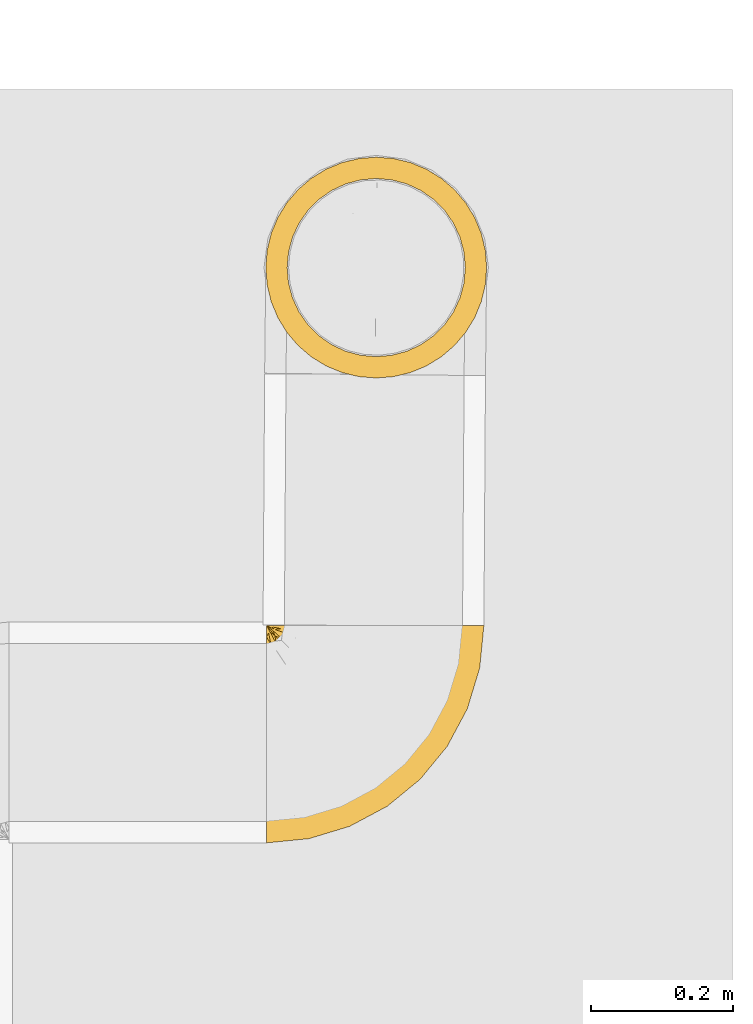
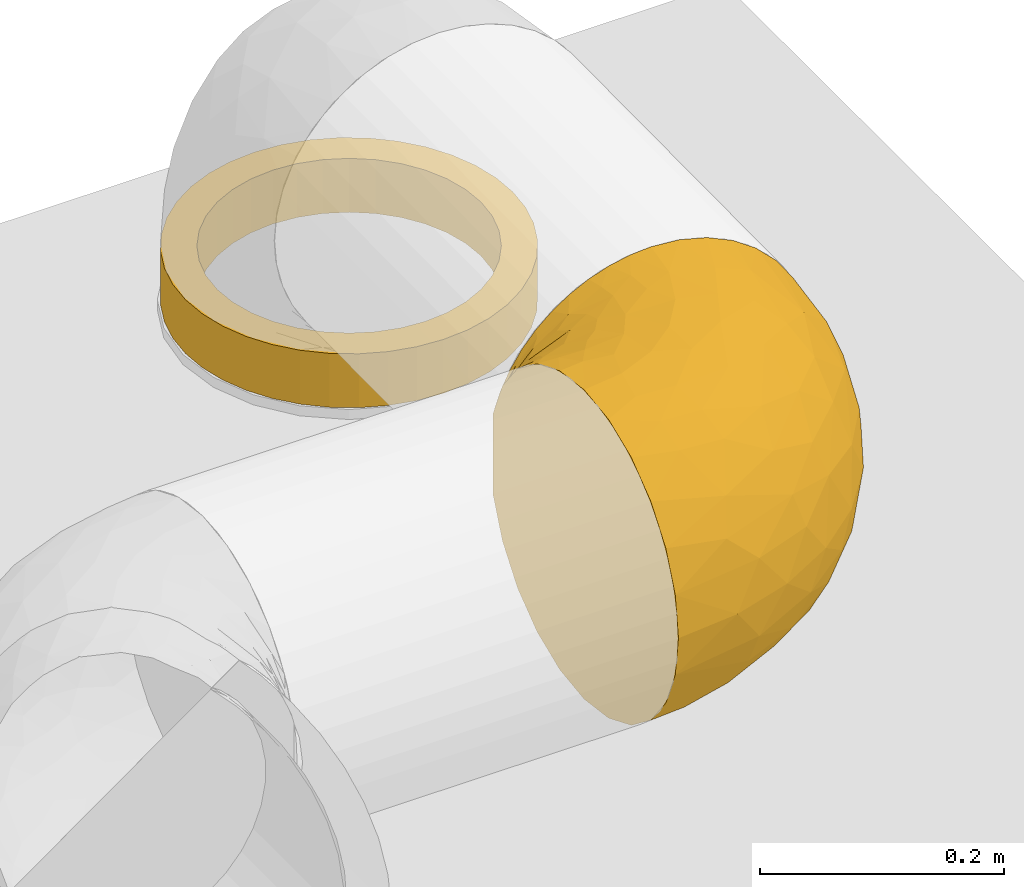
# One storey, part 3 of 36: 2 coverings.
"""IFC2X3 building model written with IfcOpenShell, lengths in millimetres."""

import ifcopenshell
import ifcopenshell.guid

model = None  # the IFC model being written
_history = None  # IfcOwnerHistory: only IFC2X3 demands one
_inside = {}  # id of a spatial element -> (the spatial element, [elements in it])
_under = {}  # id of a project, library or spatial element -> (it, [spatial elements below it])
_declared = {}  # id of a project -> (the project, [libraries it declares])
_typed = {}  # id of a type object -> (the type object, [elements of that type])
_made_of = {}  # id of a material, layer set ... -> (it, [elements and type objects made of it])


def new_model(schema):
    """Start an empty IFC model of exactly this schema.

    Asked for "IFC4X3", IfcOpenShell would pick the latest addendum, in which some entities
    have other attributes; the version numbers below select the first issue.
    IFC2X3 requires an IfcOwnerHistory on every rooted entity: one is made here for all.
    """
    global model, _history
    if schema == "IFC4X3":
        model = ifcopenshell.file(schema_version=(4, 3, 0, 0))
    else:
        model = ifcopenshell.file(schema=schema)
    _inside.clear()
    _under.clear()
    _declared.clear()
    _typed.clear()
    _made_of.clear()
    _history = None
    if model.schema == "IFC2X3":
        org = make("IfcOrganization", Name="unknown")
        user = make(
            "IfcPersonAndOrganization",
            ThePerson=make("IfcPerson", FamilyName="unknown"),
            TheOrganization=org,
        )
        app = make(
            "IfcApplication",
            ApplicationDeveloper=org,
            Version="unknown",
            ApplicationFullName="unknown",
            ApplicationIdentifier="unknown",
        )
        _history = make(
            "IfcOwnerHistory",
            OwningUser=user,
            OwningApplication=app,
            ChangeAction="ADDED",
            CreationDate=0,
        )
    return model


def make(cls, **values):
    """One entity of the class cls with the attributes given. An attribute that is None is left unset."""
    return model.create_entity(
        cls, **{name: value for name, value in values.items() if value is not None}
    )


def entity(cls, *values):
    """Any entity or typed value of the class cls, its attributes in the order of the schema. None: left unset."""
    e = model.create_entity(cls)
    for i, value in enumerate(values):
        if value is not None:
            e[i] = value
    return e


def rooted(cls, **values):
    """An entity with a GlobalId (a new one), such as an element, a storey or a relation."""
    return make(cls, GlobalId=ifcopenshell.guid.new(), OwnerHistory=_history, **values)


def si_unit(unit_type, name, prefix=None):
    """IfcSIUnit, for example si_unit("LENGTHUNIT", "METRE", prefix="MILLI")."""
    return make("IfcSIUnit", UnitType=unit_type, Prefix=prefix, Name=name)


def converted_unit(unit_type, name, factor, base, dimensions=None, offset=None):
    """IfcConversionBasedUnit, such as the inch: factor (a typed value) times the base unit."""
    return make(
        "IfcConversionBasedUnit"
        if offset is None
        else "IfcConversionBasedUnitWithOffset",
        ConversionOffset=offset,
        Dimensions=None
        if dimensions is None
        else entity("IfcDimensionalExponents", *dimensions),
        UnitType=unit_type,
        Name=name,
        ConversionFactor=make(
            "IfcMeasureWithUnit", ValueComponent=factor, UnitComponent=base
        ),
    )


def derived_unit(unit_type, elements):
    """IfcDerivedUnit: a product of units, each with its exponent."""
    return make(
        "IfcDerivedUnit",
        Elements=[
            make("IfcDerivedUnitElement", Unit=unit, Exponent=power)
            for unit, power in elements
        ],
        UnitType=unit_type,
    )


def assignment(units):
    """IfcUnitAssignment: the units of a project."""
    return None if units is None else make("IfcUnitAssignment", Units=units)


def point(xyz):
    """IfcCartesianPoint."""
    return None if xyz is None else make("IfcCartesianPoint", Coordinates=xyz)


def direction(xyz):
    """IfcDirection."""
    return None if xyz is None else make("IfcDirection", DirectionRatios=xyz)


def frame(location, z_axis=None, x_axis=None):
    """IfcAxis2Placement3D, a coordinate frame: its origin and axes. An axis left out is left unset."""
    return make(
        "IfcAxis2Placement3D",
        Location=point(location),
        Axis=direction(z_axis),
        RefDirection=direction(x_axis),
    )


def frame_2d(location, x_axis=None):
    """IfcAxis2Placement2D, a coordinate frame in the plane: its origin and x axis."""
    return make(
        "IfcAxis2Placement2D", Location=point(location), RefDirection=direction(x_axis)
    )


def origin_with_axes():
    """The frame at (0, 0, 0) with the z axis (0, 0, 1) and the x axis (1, 0, 0) written out."""
    return frame((0.0, 0.0, 0.0), z_axis=(0.0, 0.0, 1.0), x_axis=(1.0, 0.0, 0.0))


def origin_2d_with_axis():
    """The frame at (0, 0) in the plane with the x axis (1, 0) written out."""
    return frame_2d((0.0, 0.0), x_axis=(1.0, 0.0))


def place(relative_to, where):
    """IfcLocalPlacement: puts the frame where relative to a parent placement (None: the world)."""
    return make(
        "IfcLocalPlacement", PlacementRelTo=relative_to, RelativePlacement=where
    )


def context(
    kind, dimensions, precision=None, world=None, true_north=None, identifier=None
):
    """IfcGeometricRepresentationContext, for example the 3D "Model" context."""
    return make(
        "IfcGeometricRepresentationContext",
        ContextIdentifier=identifier,
        ContextType=kind,
        CoordinateSpaceDimension=dimensions,
        Precision=precision,
        WorldCoordinateSystem=world,
        TrueNorth=true_north,
    )


def subcontext(parent, identifier, kind, view, scale=None):
    """IfcGeometricRepresentationSubContext, for example "Body" below "Model"."""
    return make(
        "IfcGeometricRepresentationSubContext",
        ContextIdentifier=identifier,
        ContextType=kind,
        ParentContext=parent,
        TargetScale=scale,
        TargetView=view,
    )


def project(units=None, contexts=None):
    """IfcProject with its units and contexts."""
    return rooted(
        "IfcProject",
        Name="project",
        RepresentationContexts=contexts,
        UnitsInContext=assignment(units),
    )


def spatial(cls, under=None, at=None, **own):
    """A site, building, storey or space (cls), placed at a placement, below another one or the project."""
    s = rooted(cls, ObjectPlacement=at, **own)
    if under is not None:
        _under.setdefault(under.id(), (under, []))[1].append(s)
    return s


def profile(cls, at=None, kind="AREA", **sizes):
    """A parametric profile (cls). Its sizes go by their IFC names, for example OverallWidth=200.0."""
    return make(cls, ProfileType=kind, Position=at, **sizes)


def hollow_circle(**sizes):
    """IfcCircleHollowProfileDef."""
    return profile("IfcCircleHollowProfileDef", **sizes)


def extrude(swept, where, along, depth):
    """IfcExtrudedAreaSolid: the profile swept, set in the frame where, extruded along a direction by depth."""
    return make(
        "IfcExtrudedAreaSolid",
        SweptArea=swept,
        Position=where,
        ExtrudedDirection=direction(along),
        Depth=depth,
    )


def faces_of(points, faces, orient=None, outer=None):
    """IfcFace entities. A face is a list of loops; a loop is a list of indices into points, from 0.

    orient and outer hold one flag for each loop. By default every Orientation is true, the
    first loop of a face is its IfcFaceOuterBound and the others are IfcFaceBound.
    """
    made = []
    for i, loops in enumerate(faces):
        bounds = []
        for j, loop in enumerate(loops):
            is_outer = j == 0 if outer is None else outer[i][j]
            bounds.append(
                make(
                    "IfcFaceOuterBound" if is_outer else "IfcFaceBound",
                    Bound=make("IfcPolyLoop", Polygon=[points[k] for k in loop]),
                    Orientation=True if orient is None else orient[i][j],
                )
            )
        made.append(make("IfcFace", Bounds=bounds))
    return made


def open_shell(faces, orient=None, outer=None):
    """The faces of one IfcOpenShell. surface_model builds it on its shared points."""
    return ("IfcOpenShell", faces, orient, outer)


def surface_model(cls, points, shells):
    """IfcFaceBasedSurfaceModel or IfcShellBasedSurfaceModel (cls): surfaces that need not close."""
    shared = [point(p) for p in points]
    made = [make(c, CfsFaces=faces_of(shared, fs, o, b)) for c, fs, o, b in shells]
    if cls == "IfcFaceBasedSurfaceModel":
        return make(cls, FbsmFaces=made)
    return make(cls, SbsmBoundary=made)


def shape(context_of_items, identifier, shape_type, items):
    """IfcShapeRepresentation: the items that make up one representation, for example the "Body"."""
    return make(
        "IfcShapeRepresentation",
        ContextOfItems=context_of_items,
        RepresentationIdentifier=identifier,
        RepresentationType=shape_type,
        Items=items,
    )


def source(mapping_origin, context_of_items, identifier, shape_type, items):
    """IfcRepresentationMap: a shape defined once, which mapped items show again and again."""
    return make(
        "IfcRepresentationMap",
        MappingOrigin=mapping_origin,
        MappedRepresentation=shape(context_of_items, identifier, shape_type, items),
    )


def transform(
    local_origin,
    x_axis=None,
    y_axis=None,
    z_axis=None,
    scale=None,
    scale2=None,
    scale3=None,
    uniform=True,
):
    """IfcCartesianTransformationOperator3D, or its non-uniform kind. x_axis, y_axis, z_axis: its Axis1, 2, 3."""
    if uniform:
        return make(
            "IfcCartesianTransformationOperator3D",
            Axis1=direction(x_axis),
            Axis2=direction(y_axis),
            LocalOrigin=point(local_origin),
            Scale=scale,
            Axis3=direction(z_axis),
        )
    return make(
        "IfcCartesianTransformationOperator3DnonUniform",
        Axis1=direction(x_axis),
        Axis2=direction(y_axis),
        LocalOrigin=point(local_origin),
        Scale=scale,
        Axis3=direction(z_axis),
        Scale2=scale2,
        Scale3=scale3,
    )


def mapped(mapping_source, mapping_target):
    """IfcMappedItem: shows the shape of a source again, moved by a transform."""
    return make(
        "IfcMappedItem", MappingSource=mapping_source, MappingTarget=mapping_target
    )


def made_of(thing, what):
    """Note that an element or type object is made of a material, layer set ...; save() writes the relation."""
    if what is not None:
        _made_of.setdefault(what.id(), (what, []))[1].append(thing)
    return thing


def element(
    cls,
    number,
    at=None,
    inside=None,
    cuts=None,
    type_object=None,
    material=None,
    context=None,
    identifier="Body",
    shape_type=None,
    held_by="IfcProductDefinitionShape",
    body=None,
    shapes=None,
    **own,
):
    """One element of the class cls, such as IfcWall. Its Tag is "e" and its number.

    at: its placement. inside: the storey or other place that contains it. cuts: it is an
    opening in that element (IfcRelVoidsElement). A single representation is given by context,
    identifier, shape_type and body (its items); several are given by shapes. held_by: the class
    of the entity that holds the representations. save() writes the other relations.
    """
    e = rooted(cls, Tag="e%d" % number, ObjectPlacement=at, **own)
    if body is not None:
        shapes = [shape(context, identifier, shape_type, body)]
    if shapes is not None:
        e.Representation = make(held_by, Representations=shapes)
    if inside is not None:
        _inside.setdefault(inside.id(), (inside, []))[1].append(e)
    if cuts is not None:
        rooted(
            "IfcRelVoidsElement", RelatingBuildingElement=cuts, RelatedOpeningElement=e
        )
    if type_object is not None:
        _typed.setdefault(type_object.id(), (type_object, []))[1].append(e)
    return made_of(e, material)


def aggregate(whole, parts):
    """IfcRelAggregates: a whole, such as a stair, and the parts it consists of."""
    return rooted("IfcRelAggregates", RelatingObject=whole, RelatedObjects=parts)


def save(model, path):
    """Write the relations noted so far, then the file.

    IfcRelAggregates (storeys below a building ...), IfcRelContainedInSpatialStructure (elements
    in a storey), IfcRelDefinesByType, IfcRelAssociatesMaterial and IfcRelDeclares: one each for
    every whole, place, type object, material and project.
    """
    for whole, parts in _under.values():
        aggregate(whole, parts)
    for where, things in _inside.values():
        rooted(
            "IfcRelContainedInSpatialStructure",
            RelatedElements=things,
            RelatingStructure=where,
        )
    for kind, things in _typed.values():
        rooted("IfcRelDefinesByType", RelatedObjects=things, RelatingType=kind)
    for what, things in _made_of.values():
        rooted("IfcRelAssociatesMaterial", RelatedObjects=things, RelatingMaterial=what)
    for by, libraries in _declared.values():
        rooted("IfcRelDeclares", RelatingContext=by, RelatedDefinitions=libraries)
    model.write(path)


model = new_model("IFC2X3")

# Units and contexts
model_context = context("Model", 3, precision=0.01, world=frame((0.0, 4.29681676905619e-09, 0.0)), true_north=direction((4.01073788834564e-13, 1.0)))
plan_context = context("Plan", 3, precision=0.01, world=frame((0.0, 4.29681676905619e-09, 0.0)), true_north=direction((4.01073788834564e-13, 1.0)))
body_context = subcontext(model_context, "Body", "Model", "MODEL_VIEW")
ifc_project = project(units=[converted_unit("PLANEANGLEUNIT", "DEGREE", entity("IfcPositiveLengthMeasure", 0.0174532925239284), si_unit("PLANEANGLEUNIT", "RADIAN"), dimensions=[0, 0, 0, 0, 0, 0, 0]), si_unit("AREAUNIT", "SQUARE_METRE"), si_unit("LENGTHUNIT", "METRE", prefix="MILLI"), si_unit("MASSUNIT", "GRAM", prefix="KILO"), si_unit("POWERUNIT", "WATT"), si_unit("PRESSUREUNIT", "PASCAL"), si_unit("FORCEUNIT", "NEWTON", prefix="KILO"), si_unit("ELECTRICCURRENTUNIT", "AMPERE"), si_unit("THERMODYNAMICTEMPERATUREUNIT", "DEGREE_CELSIUS"), si_unit("TIMEUNIT", "SECOND"), si_unit("VOLUMEUNIT", "CUBIC_METRE"), derived_unit("LINEARVELOCITYUNIT", [(si_unit("LENGTHUNIT", "METRE"), 1), (si_unit("TIMEUNIT", "SECOND"), -1)]), derived_unit("VOLUMETRICFLOWRATEUNIT", [(si_unit("VOLUMEUNIT", "CUBIC_METRE"), 1), (si_unit("TIMEUNIT", "SECOND"), -1)]), derived_unit("THERMALTRANSMITTANCEUNIT", [(si_unit("POWERUNIT", "WATT"), 1), (si_unit("THERMODYNAMICTEMPERATUREUNIT", "KELVIN"), -1), (si_unit("AREAUNIT", "SQUARE_METRE"), -1)])], contexts=[model_context, plan_context])

# Site, building, storey
site_placement = place(None, frame((0.0, -4.29681676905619e-09, 0.0), z_axis=(0.0, 0.0, 1.0), x_axis=(1.0, 0.0, 0.0)))
site = spatial("IfcSite", under=ifc_project, at=site_placement, CompositionType="ELEMENT")
building_placement = place(site_placement, frame((0.0, 4.29681676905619e-09, 0.0), z_axis=(0.0, 0.0, 1.0), x_axis=(1.0, 0.0, 0.0)))
building = spatial("IfcBuilding", under=site, at=building_placement, Name="mc-building", CompositionType="ELEMENT")
storey_placement = place(building_placement, frame((0.0, 0.0, 204000.0), z_axis=(0.0, 0.0, 1.0), x_axis=(1.0, 0.0, 0.0)))
storey = spatial("IfcBuildingStorey", under=building, at=storey_placement, Name="Nivå D", CompositionType="ELEMENT", Elevation=204000.0)

# Coverings
shared_shape_1 = source(origin_with_axes(), body_context, "Body", "SurfaceModel", [
    surface_model("IfcShellBasedSurfaceModel", [(118.73529, 150.0, 99.63399), (134.23266, 150.0, 77.50222), (145.65278, 150.0, 53.01196), (-20.18853, 150.0, 153.67961), (0.0, 150.0, 155.0), (-40.0315, 150.0, 149.74138), (-134.05246, 150.0, 77.81348), (-149.602, 150.0, 40.54927), (-143.04559, 150.0, 59.69053), (-149.602, 150.0, -40.54927), (152.6459, 150.0, 26.91148), (155.0, 150.0, 0.0), (99.63399, 150.0, -118.73529), (77.50222, 150.0, -134.23266), (53.01196, 150.0, -145.65278), (26.91148, 150.0, -152.6459), (0.0, 150.0, -155.0), (-94.1823, 150.0, -123.1044), (-109.41224, 150.0, -109.79054), (-122.77862, 150.0, -94.6066), (-134.05394, 150.0, -77.81094), (-143.0461, 150.0, -59.68929), (-150.0, 149.602, -40.54927), (-150.0, 149.602, 40.54927), (-149.71857, 149.71857, 40.54927), (-149.71857, 149.71857, -40.54927), (-122.0938, 63.58605, -143.25267), (-150.0, 77.34484, -134.3234), (-136.20073, 95.91287, -123.10592), (-137.47708, 125.83029, -94.60648), (-147.1653, 140.01208, -67.31958), (-145.05359, 140.9526, -67.17187), (-150.0, 134.05448, -77.80999), (-149.94253, 149.6258, -40.54927), (-80.29961, 51.39737, -152.21515), (-103.44954, 37.61727, -152.38384), (-94.99005, 78.30964, -143.06822), (-150.0, 109.41143, -109.79135), (-55.95077, 115.20609, -146.80879), (-89.48176, 101.66012, -136.97501), (-88.82525, 121.39611, -131.24017), (-111.53741, 121.30822, -116.69619), (-144.09591, 123.4267, -94.60648), (-150.0, 40.03045, -149.74166), (-127.29873, 29.80052, -152.50922), (-150.0, 0.0, -155.0), (-75.0, 20.09619, -155.0), (-118.1798, 139.03454, -102.41686), (-118.92581, 90.55276, -130.95454), (-59.19573, 150.0, -143.25106), (-70.00847, 133.96789, -139.08278), (-77.34799, 150.0, -134.32159), (-61.94591, 82.43371, -150.01067), (-20.09619, 75.0, -155.0), (-43.93398, 43.93398, -155.0), (-149.68409, 149.80181, -40.54927), (-149.6496, 149.88506, -40.54927), (-132.32871, 142.03789, -83.45054), (-31.66904, 101.56483, -153.41062), (-136.84157, 146.59806, -73.60439), (-96.60055, 136.76109, -122.48696), (-32.51292, 126.45276, -152.03415), (-5.11113, 111.17714, -155.0), (-20.18986, 150.0, -153.67945), (-40.03434, 150.0, -149.74061), (-111.17714, 5.11113, -155.0), (-137.03744, 135.04293, -84.08924), (-122.88609, 116.1525, -112.49311), (-136.26737, 140.44841, -79.14233), (-131.29438, 108.39556, -114.58186), (-106.70969, 100.42277, -130.1473), (-149.85928, 149.66028, -40.54927), (-149.78892, 149.68943, -40.54927), (-81.04119, -16.4813, -152.02986), (-116.18378, -26.02376, -152.21653), (131.78325, 33.28155, 0.0), (141.04553, 78.41765, -40.11476), (149.13951, 90.49746, 0.0), (-67.24735, -127.11264, -68.1691), (-150.0, -149.7185, -40.11695), (-150.0, -134.23394, -77.5), (114.14712, 29.15563, -65.5067), (71.60067, -25.07998, -80.56368), (73.38458, 8.67006, -104.65045), (19.44892, -103.59823, 0.0), (0.95675, -110.7753, -33.58994), (49.11602, -77.65106, -28.03421), (-55.94132, -75.53005, -122.96977), (-107.24387, -90.58835, -122.96977), (-95.66121, -52.13969, -143.20133), (-0.20771, 35.06033, -150.06284), (-51.31739, 1.48198, -152.392), (-150.0, -77.5, -134.23394), (-150.0, -109.60155, -109.60155), (-54.64138, -41.60716, -141.15892), (152.64582, 150.0, -26.91195), (66.67312, 101.83568, -137.28255), (45.31502, 58.92276, -140.47743), (34.46684, 104.00581, -149.71919), (24.23902, -68.16086, -85.62716), (34.45369, -32.67366, -109.60181), (24.66713, 4.62395, -134.37766), (63.48014, 35.8833, -124.69436), (-79.13657, -113.61121, -94.35802), (-150.0, -155.0, 0.0), (-90.49746, -149.13951, 0.0), (37.641, -76.72836, -56.58032), (80.98557, -39.56495, -43.35542), (-33.28155, -131.78325, 0.0), (-62.91134, -137.09287, -39.00803), (-13.29658, -105.75414, -66.52793), (16.94312, 69.59641, -150.92769), (-24.95593, -12.96061, -144.75851), (118.73482, 150.0, -99.63454), (134.23249, 150.0, -77.50252), (130.97075, 88.8354, -71.44703), (94.07091, 61.55667, -109.60181), (-18.16534, -43.73064, -130.0498), (-9.76446, -69.1649, -109.00911), (65.66757, -65.66757, 0.0), (103.59823, -19.44892, 0.0), (145.65269, 150.0, -53.0122), (120.05296, 16.01657, -32.92188), (-150.0, -40.11695, -149.7185), (26.91195, 150.0, 152.64582), (-5.11113, 111.17714, 155.0), (34.46716, 104.0056, 149.7191), (-150.0, -149.7185, 40.11695), (-62.91133, -137.09289, 39.0079), (66.67351, 101.83536, 137.28232), (99.63454, 150.0, 118.73482), (77.50252, 150.0, 134.23249), (-4.6351, -113.35095, 35.80975), (-0.2077, 35.06033, 150.06284), (-20.09619, 75.0, 155.0), (-43.93398, 43.93398, 155.0), (36.16335, -79.7298, 52.90958), (-13.29652, -105.75426, 66.52764), (130.97108, 88.83573, 71.44654), (94.07163, 61.55714, 109.6013), (-92.39124, -133.99727, 66.97895), (80.98555, -39.56494, 43.3555), (141.04569, 78.41789, 40.11439), (-150.0, 0.0, 155.0), (-150.0, -40.11695, 149.7185), (-116.18307, -26.02416, 152.21643), (-42.25815, 9.58809, 152.63287), (-81.59831, -114.26067, 94.35802), (-106.87422, -81.84174, 129.07425), (-68.59042, -52.86926, 138.99578), (-109.18329, -55.29772, 143.20132), (-150.0, -77.5, 134.23394), (24.85479, 7.19063, 135.22219), (45.31512, 58.92233, 140.4773), (71.60146, -25.07914, 80.56352), (73.38472, 8.67039, 104.65052), (34.45406, -32.67402, 109.6013), (-62.50502, -78.15668, 122.96977), (-22.5047, -16.15511, 143.15239), (-77.22963, -25.6832, 149.70747), (114.14749, 29.15614, 65.50643), (63.48119, 35.88453, 124.69411), (120.0532, 16.01702, 32.92178), (-12.32249, -52.34142, 122.67654), (-150.0, -109.60155, 109.60155), (-19.74165, -84.78439, 99.91659), (26.84205, -68.68367, 82.46936), (53.0122, 150.0, 145.65269), (-75.0, 20.09619, 155.0), (-111.17714, 5.11113, 155.0), (16.94342, 69.59623, 150.92761), (-150.0, -134.23394, 77.5), (-126.9186, 42.25363, 149.80065), (-150.0, 40.03045, 149.74166), (-133.44376, 70.7605, 138.77026), (-150.0, 77.34484, 134.3234), (-80.71722, 115.52173, 136.9396), (-88.44442, 132.27863, 128.99063), (-102.56993, 126.66501, 120.78383), (-129.14296, 145.62289, 86.39583), (-122.77614, 150.0, 94.60984), (-78.97145, 57.43379, 151.37565), (-102.00586, 34.13191, 153.03779), (-149.6496, 149.88506, 40.54927), (-149.68409, 149.80181, 40.54927), (-138.49277, 144.51348, 72.02054), (-31.66714, 101.56927, 153.41064), (-62.73488, 83.03912, 149.74853), (-145.07011, 140.96969, 67.1242), (-149.85928, 149.66028, 40.54927), (-147.18207, 140.07114, 67.19209), (-79.93189, 99.563, 141.32072), (-55.94657, 115.20788, 146.80992), (-127.65846, 131.00429, 97.27617), (-138.2493, 135.6572, 82.12014), (-126.96761, 121.12603, 106.02507), (-150.0, 134.05448, 77.80999), (-150.0, 109.41143, 109.79135), (-143.89541, 123.47205, 94.60648), (-137.14121, 126.0073, 94.60648), (-133.70052, 96.61307, 123.10592), (-141.16662, 142.91589, 69.23674), (-118.67586, 137.68084, 102.42018), (-32.51047, 126.45429, 152.03457), (-149.94253, 149.6258, 40.54927), (-112.02924, 142.68426, 107.84446), (-56.66755, 133.19502, 144.85039), (-59.19195, 150.0, 143.25262), (-141.71917, 147.96851, 63.32625), (-94.17833, 150.0, 123.10745), (-77.34385, 150.0, 134.32397), (-149.6258, 149.94253, 40.54927), (-109.40886, 150.0, 109.79391), (-127.7393, 109.40375, 115.20024), (-112.88997, 97.15414, 129.33464), (-98.3972, 112.04888, 128.99063), (-89.95823, 85.78628, 142.02115), (-113.50407, 61.89104, 145.05307), (-103.07319, 76.35019, 141.76527), (-149.78892, 149.68943, 40.54927)], [open_shell([[[0, 1, 2]], [[3, 4, 5]], [[6, 7, 8]], [[9, 7, 6]], [[2, 10, 11]], [[12, 13, 14]], [[14, 15, 16]], [[17, 18, 19]], [[9, 20, 21]], [[20, 9, 19]], [[17, 19, 9]], [[22, 23, 24]], [[25, 22, 24]], [[7, 9, 24]], [[25, 24, 9]], [[26, 27, 28]], [[29, 30, 31]], [[32, 22, 33]], [[34, 35, 36]], [[27, 37, 28]], [[38, 39, 40]], [[39, 41, 40]], [[42, 37, 32]], [[43, 44, 45]], [[42, 28, 37]], [[44, 26, 35]], [[35, 34, 46]], [[19, 18, 47]], [[43, 27, 26]], [[48, 26, 28]], [[49, 50, 51]], [[52, 53, 54]], [[55, 56, 57]], [[21, 56, 9]], [[58, 52, 38]], [[59, 21, 20]], [[38, 52, 39]], [[50, 40, 60]], [[17, 60, 18]], [[51, 50, 60]], [[58, 61, 62]], [[63, 62, 61]], [[54, 34, 52]], [[40, 50, 38]], [[64, 50, 49]], [[61, 58, 38]], [[50, 64, 61]], [[65, 35, 46]], [[63, 61, 64]], [[63, 16, 62]], [[42, 30, 29]], [[19, 59, 20]], [[61, 38, 50]], [[29, 31, 66]], [[40, 47, 60]], [[66, 67, 29]], [[19, 47, 59]], [[47, 40, 41]], [[57, 41, 68]], [[67, 48, 69]], [[41, 67, 66]], [[56, 59, 57]], [[62, 53, 58]], [[52, 58, 53]], [[52, 36, 39]], [[70, 39, 36]], [[33, 30, 32]], [[42, 29, 69]], [[30, 33, 71]], [[30, 71, 31]], [[32, 30, 42]], [[66, 72, 25]], [[66, 25, 68]], [[31, 72, 66]], [[41, 66, 68]], [[70, 41, 39]], [[48, 36, 26]], [[44, 35, 65]], [[36, 35, 26]], [[52, 34, 36]], [[54, 46, 34]], [[31, 71, 72]], [[69, 48, 28]], [[70, 48, 67]], [[45, 44, 65]], [[26, 44, 43]], [[18, 60, 47]], [[51, 60, 17]], [[68, 25, 55]], [[21, 59, 56]], [[57, 59, 47]], [[48, 70, 36]], [[41, 70, 67]], [[42, 69, 28]], [[67, 69, 29]], [[41, 57, 47]], [[55, 57, 68]], [[46, 73, 65]], [[74, 45, 65]], [[75, 76, 77]], [[78, 79, 80]], [[81, 82, 83]], [[84, 85, 86]], [[87, 88, 89]], [[54, 90, 91]], [[92, 88, 93]], [[73, 91, 94]], [[95, 77, 76]], [[96, 97, 98]], [[82, 99, 100]], [[101, 97, 102]], [[80, 103, 78]], [[104, 79, 105]], [[86, 106, 107]], [[80, 93, 103]], [[108, 105, 109]], [[106, 85, 110]], [[97, 90, 111]], [[107, 82, 81]], [[108, 109, 85]], [[101, 112, 90]], [[97, 111, 98]], [[109, 78, 110]], [[113, 114, 115]], [[105, 79, 109]], [[15, 14, 98]], [[116, 12, 113]], [[100, 117, 101]], [[14, 13, 96]], [[62, 15, 98]], [[14, 96, 98]], [[93, 88, 103]], [[15, 62, 16]], [[103, 87, 118]], [[117, 94, 112]], [[119, 107, 120]], [[76, 115, 121]], [[90, 54, 53]], [[122, 76, 75]], [[76, 121, 95]], [[92, 123, 89]], [[116, 113, 115]], [[96, 12, 116]], [[95, 11, 77]], [[122, 120, 107]], [[118, 100, 99]], [[81, 115, 76]], [[76, 122, 81]], [[73, 74, 65]], [[91, 90, 112]], [[62, 98, 111]], [[83, 102, 116]], [[101, 90, 97]], [[117, 100, 118]], [[91, 73, 46]], [[74, 89, 123]], [[99, 106, 110]], [[83, 82, 100]], [[106, 82, 107]], [[110, 103, 118]], [[118, 99, 110]], [[117, 118, 87]], [[94, 87, 89]], [[101, 117, 112]], [[87, 94, 117]], [[73, 94, 89]], [[82, 106, 99]], [[107, 119, 86]], [[108, 85, 84]], [[109, 110, 85]], [[84, 86, 119]], [[85, 106, 86]], [[120, 122, 75]], [[107, 81, 122]], [[89, 74, 73]], [[45, 74, 123]], [[12, 96, 13]], [[102, 96, 116]], [[116, 115, 81]], [[121, 115, 114]], [[89, 88, 92]], [[103, 88, 87]], [[102, 100, 101]], [[81, 83, 116]], [[102, 83, 100]], [[96, 102, 97]], [[54, 91, 46]], [[94, 91, 112]], [[90, 53, 111]], [[62, 111, 53]], [[78, 109, 79]], [[103, 110, 78]], [[124, 125, 126]], [[127, 104, 105]], [[108, 128, 105]], [[129, 130, 131]], [[108, 84, 132]], [[133, 134, 135]], [[136, 137, 132]], [[138, 0, 139]], [[140, 127, 128]], [[119, 141, 136]], [[77, 10, 142]], [[141, 119, 120]], [[143, 144, 145]], [[146, 133, 135]], [[137, 147, 140]], [[148, 149, 150]], [[150, 144, 151]], [[152, 153, 133]], [[154, 136, 141]], [[154, 155, 156]], [[148, 147, 157]], [[158, 146, 159]], [[154, 141, 160]], [[156, 161, 152]], [[162, 120, 75]], [[163, 152, 158]], [[142, 75, 77]], [[164, 147, 148]], [[163, 157, 165]], [[10, 2, 142]], [[166, 136, 154]], [[11, 10, 77]], [[129, 131, 167]], [[160, 142, 138]], [[168, 169, 159]], [[2, 1, 138]], [[149, 159, 150]], [[139, 0, 130]], [[153, 126, 170]], [[135, 168, 146]], [[170, 125, 134]], [[153, 170, 133]], [[126, 129, 167]], [[139, 160, 138]], [[167, 124, 126]], [[165, 157, 147]], [[4, 125, 124]], [[164, 171, 147]], [[142, 160, 162]], [[126, 153, 129]], [[150, 145, 144]], [[127, 105, 128]], [[140, 147, 171]], [[142, 162, 75]], [[165, 147, 137]], [[152, 133, 158]], [[156, 155, 161]], [[148, 150, 151]], [[145, 159, 169]], [[166, 165, 137]], [[163, 165, 156]], [[152, 163, 156]], [[149, 163, 158]], [[155, 160, 139]], [[156, 165, 166]], [[160, 141, 162]], [[120, 162, 141]], [[166, 137, 136]], [[156, 166, 154]], [[132, 137, 128]], [[119, 136, 84]], [[108, 132, 128]], [[84, 136, 132]], [[2, 138, 142]], [[138, 1, 0]], [[161, 129, 153]], [[130, 129, 139]], [[159, 145, 150]], [[143, 145, 169]], [[159, 146, 168]], [[133, 146, 158]], [[163, 149, 157]], [[158, 159, 149]], [[160, 155, 154]], [[155, 139, 161]], [[129, 161, 139]], [[152, 161, 153]], [[164, 148, 151]], [[149, 148, 157]], [[125, 170, 126]], [[134, 133, 170]], [[127, 140, 171]], [[137, 140, 128]], [[143, 169, 172]], [[173, 174, 175]], [[176, 177, 178]], [[179, 180, 6]], [[181, 168, 135]], [[168, 182, 169]], [[183, 184, 185]], [[186, 187, 134]], [[188, 189, 190]], [[191, 192, 176]], [[193, 194, 195]], [[196, 197, 198]], [[169, 182, 172]], [[188, 199, 194]], [[172, 174, 173]], [[200, 197, 175]], [[193, 201, 194]], [[202, 179, 185]], [[203, 186, 125]], [[196, 204, 23]], [[125, 4, 3]], [[178, 177, 202]], [[205, 180, 179]], [[206, 5, 207]], [[189, 204, 190]], [[6, 8, 208]], [[209, 177, 210]], [[5, 206, 203]], [[187, 135, 134]], [[192, 203, 206]], [[8, 7, 211]], [[205, 209, 212]], [[208, 185, 179]], [[205, 212, 180]], [[206, 210, 177]], [[195, 213, 214]], [[181, 135, 187]], [[215, 178, 193]], [[208, 8, 211]], [[205, 179, 202]], [[186, 203, 192]], [[5, 203, 3]], [[125, 3, 203]], [[193, 202, 185]], [[216, 181, 187]], [[200, 217, 218]], [[200, 213, 198]], [[216, 215, 214]], [[182, 181, 217]], [[218, 181, 216]], [[215, 193, 195]], [[200, 198, 197]], [[190, 196, 198]], [[187, 186, 192]], [[134, 125, 186]], [[199, 188, 190]], [[196, 190, 204]], [[199, 190, 198]], [[199, 195, 194]], [[194, 219, 188]], [[201, 193, 185]], [[202, 177, 205]], [[185, 184, 201]], [[24, 194, 201]], [[213, 195, 199]], [[24, 201, 184]], [[215, 195, 214]], [[198, 213, 199]], [[200, 214, 213]], [[219, 194, 24]], [[219, 189, 188]], [[209, 205, 177]], [[210, 206, 207]], [[177, 192, 206]], [[216, 187, 191]], [[218, 216, 214]], [[181, 182, 168]], [[172, 182, 217]], [[172, 217, 174]], [[172, 173, 143]], [[217, 200, 174]], [[200, 175, 174]], [[200, 218, 214]], [[181, 218, 217]], [[193, 178, 202]], [[176, 178, 215]], [[191, 176, 215]], [[177, 176, 192]], [[216, 191, 215]], [[192, 191, 187]], [[208, 211, 183]], [[185, 208, 183]], [[208, 179, 6]], [[180, 212, 6]], [[9, 6, 212]], [[16, 9, 14]], [[63, 64, 49]], [[144, 164, 151]], [[167, 131, 124]], [[4, 124, 131]], [[131, 0, 4]], [[0, 9, 5]], [[0, 5, 4]], [[130, 0, 131]], [[2, 9, 0]], [[209, 5, 9]], [[5, 210, 207]], [[210, 5, 209]], [[209, 9, 212]], [[2, 95, 12]], [[12, 95, 114]], [[114, 95, 121]], [[12, 114, 113]], [[12, 14, 9]], [[2, 12, 9]], [[17, 49, 51]], [[17, 9, 49]], [[9, 16, 49]], [[16, 63, 49]], [[95, 2, 11]], [[22, 32, 27]], [[22, 27, 23]], [[27, 32, 37]], [[144, 143, 27]], [[196, 175, 197]], [[175, 196, 23]], [[23, 173, 175]], [[173, 23, 143]], [[23, 27, 143]], [[27, 43, 144]], [[123, 144, 45]], [[79, 123, 92]], [[93, 80, 79]], [[93, 79, 92]], [[144, 123, 79]], [[164, 144, 127]], [[164, 127, 171]], [[144, 79, 127]], [[79, 104, 127]], [[45, 144, 43]]])]),
])
covering_1_placement = place(storey_placement, frame((515573.60115, 419812.77189, 2614.0), z_axis=(0.0, 0.0, 1.0), x_axis=(1.0, 0.0, 0.0)))
element("IfcCovering", 1, at=covering_1_placement, inside=storey, Name="EI60-30", PredefinedType="INSULATION", context=body_context, shape_type="MappedRepresentation", body=[
    mapped(shared_shape_1, transform((0.0, 0.0, 0.0), scale=1.0)),
])
shared_shape_2 = source(origin_with_axes(), body_context, "Body", "SweptSolid", [
    extrude(hollow_circle(Radius=155.0, WallThickness=30.0, at=origin_2d_with_axis()), frame((0.0, 0.0, 0.0), z_axis=(1.0, 0.0, 0.0), x_axis=(0.0, 1.0, 0.0)), (0.0, 0.0, 1.0), 54.0),
])
covering_2_placement = place(storey_placement, frame((515577.5, 420465.19145, 2410.0), z_axis=(0.0, -1.0, 0.0), x_axis=(0.0, 0.0, 1.0)))
element("IfcCovering", 2, at=covering_2_placement, inside=storey, Name="EI60-30", PredefinedType="INSULATION", context=body_context, shape_type="MappedRepresentation", body=[
    mapped(shared_shape_2, transform((0.0, 0.0, 0.0), scale=1.0)),
])

save(model, "model.ifc")
